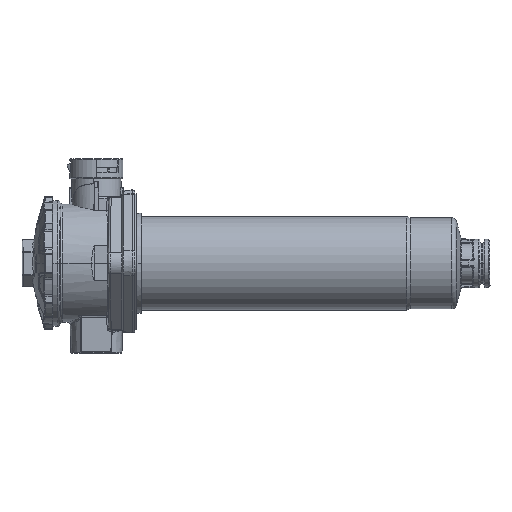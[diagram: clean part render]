
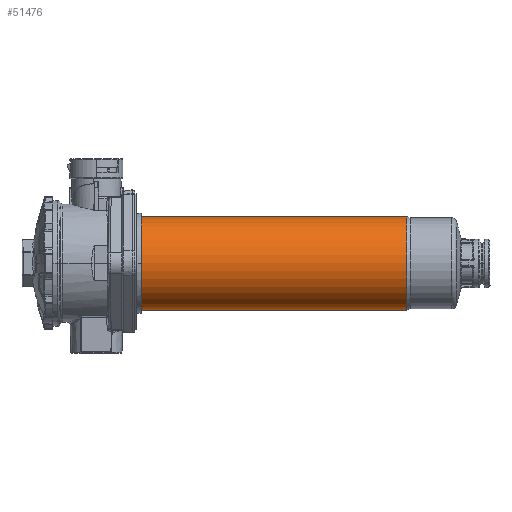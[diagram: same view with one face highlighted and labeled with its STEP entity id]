
A CAD part, top view. The second image highlights one B-rep face of the part: STEP entity #51476.
In plain terms, the highlighted cylindrical face has radius 36.5 mm (diameter 73 mm), a partial arc.
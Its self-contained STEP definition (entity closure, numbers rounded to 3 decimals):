
#13345=CARTESIAN_POINT('',(69.,-0.25,
0.));
#13346=DIRECTION('',(-1.,0.,0.));
#13347=DIRECTION('',(0.,-1.,0.));
#13348=AXIS2_PLACEMENT_3D('',#13345,#13346,#13347);
#17021=DIRECTION('',(1.,0.,0.));
#17022=VECTOR('',#17021,207.);
#17023=CARTESIAN_POINT('',(69.,36.25,
0.));
#17024=LINE('',#17023,#17022);
#17028=DIRECTION('',(1.,0.,0.));
#17029=VECTOR('',#17028,207.);
#17030=CARTESIAN_POINT('',(69.,-36.75,
0.));
#17031=LINE('',#17030,#17029);
#17245=CARTESIAN_POINT('',(276.,-0.25,
0.));
#17246=DIRECTION('',(-1.,0.,0.));
#17247=DIRECTION('',(0.,-1.,0.));
#17248=AXIS2_PLACEMENT_3D('',#17245,#17246,#17247);
#33244=CARTESIAN_POINT('',(276.,36.25,
0.));
#33245=VERTEX_POINT('',#33244);
#33246=CARTESIAN_POINT('',(276.,-36.75,
0.));
#33247=VERTEX_POINT('',#33246);
#33248=CARTESIAN_POINT('',(69.,-36.75,
0.));
#33249=VERTEX_POINT('',#33248);
#33250=CARTESIAN_POINT('',(69.,36.25,
0.));
#33251=VERTEX_POINT('',#33250);
#51465=CARTESIAN_POINT('',(162.,-0.25,
0.));
#51466=DIRECTION('',(1.,0.,0.));
#51467=DIRECTION('',(0.,1.,0.));
#51468=AXIS2_PLACEMENT_3D('',#51465,#51466,#51467);
#51469=CYLINDRICAL_SURFACE('',#51468,36.5);
#51470=ORIENTED_EDGE('',*,*,#47606,.T.);
#51471=ORIENTED_EDGE('',*,*,#51282,.T.);
#51472=ORIENTED_EDGE('',*,*,#51459,.F.);
#51473=ORIENTED_EDGE('',*,*,#51285,.F.);
#51474=EDGE_LOOP('',(#51470,#51471,#51472,#51473));
#51475=FACE_OUTER_BOUND('',#51474,.F.);
#13349=CIRCLE('',#13348,36.5);
#17249=CIRCLE('',#17248,36.5);
#47606=EDGE_CURVE('',#33249,#33251,#13349,.T.);
#51282=EDGE_CURVE('',#33251,#33245,#17024,.T.);
#51285=EDGE_CURVE('',#33249,#33247,#17031,.T.);
#51459=EDGE_CURVE('',#33247,#33245,#17249,.T.);
#51476=ADVANCED_FACE('',(#51475),#51469,.T.);
